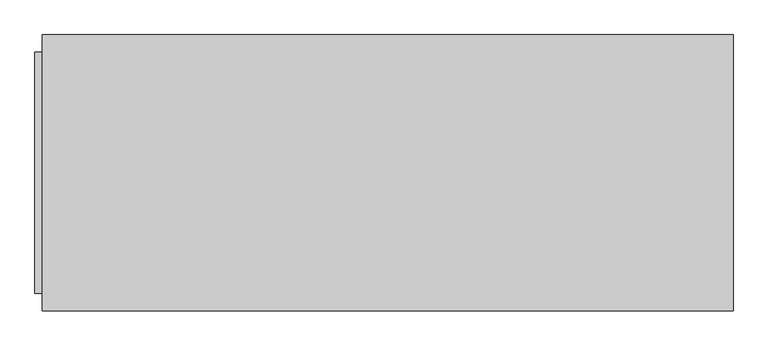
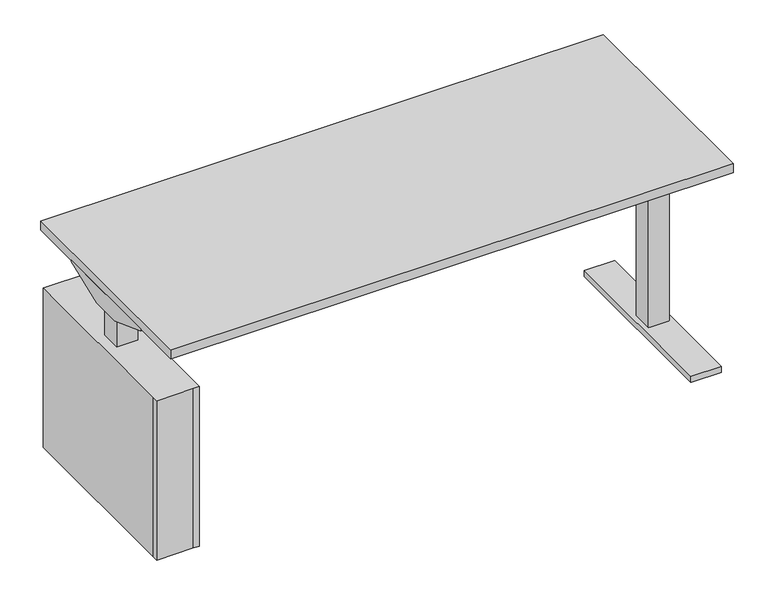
"""IFC4 building model written with IfcOpenShell, lengths in millimetres: furniture geometry, Haworth_Masters_Credenza_Desk.0001 : 28d 70w Credenza Desk - Shrouds."""

from ifc_helpers import new_model, si_unit, frame, origin, origin_with_axes, place, context, project, spatial, polyline, outline, extrude, source, transform, mapped, element, save


def furniture_03131fe9(model_context):
    return source(origin(), model_context, "Body", "SweptSolid", [
        extrude(outline(polyline([(-889.0, 311.15), (-773.4101562, 311.15), (-773.4101562, -311.15), (-792.4601562, -311.15), (-908.05, -311.15), (-908.05, -292.1), (-908.05, 311.15), (-889.0, 311.15)]), holes=[polyline([(-873.7699219, 33.02), (-873.7699219, -33.02), (-807.6902344, -33.02), (-807.6902344, 33.02), (-873.7699219, 33.02)])]), frame((0.0, 0.0, 12.7), z_axis=(0.0, 0.0, 1.0), x_axis=(1.0, 0.0, 0.0)), (0.0, 0.0, 1.0), 533.4),
        extrude(outline(polyline([(-889.0, 292.1), (-792.4601562, 292.1), (-792.4601562, -292.1), (-889.0, -292.1), (-889.0, 292.1)])), origin_with_axes(), (0.0, 0.0, 1.0), 20.6375),
        extrude(outline(polyline([(49.3599854, 648.1304493), (-49.3599854, 648.1304493), (-190.5, 700.0875), (-190.5, 706.4375), (190.5, 706.4375), (190.5, 700.0875), (49.3599854, 648.1304493)])), frame((-889.0, 0.0, 0.0), z_axis=(1.0, 0.0, 0.0), x_axis=(0.0, 1.0, 0.0)), (0.0, 0.0, 1.0), 25.4),
        extrude(outline(polyline([(-863.6, 29.21), (-811.5597656, 29.21), (-811.5597656, -29.21), (-863.6, -29.21), (-863.6, 29.21)])), frame((0.0, 0.0, 642.9375), z_axis=(0.0, 0.0, 1.0), x_axis=(1.0, 0.0, 0.0)), (0.0, 0.0, 1.0), 63.5),
        extrude(outline(polyline([(-873.7699219, 33.02), (-807.6902344, 33.02), (-807.6902344, -33.02), (-873.7699219, -33.02), (-873.7699219, 33.02)])), frame((0.0, 0.0, 20.6375), z_axis=(0.0, 0.0, 1.0), x_axis=(1.0, 0.0, 0.0)), (0.0, 0.0, 1.0), 622.3),
        extrude(outline(polyline([(889.0, 292.1), (889.0, -292.1), (792.4601563, -292.1), (792.4601563, 292.1), (889.0, 292.1)])), origin_with_axes(), (0.0, 0.0, 1.0), 20.6375),
        extrude(outline(polyline([(49.3599854, 648.1304493), (-49.3599854, 648.1304493), (-190.5, 700.0875), (-190.5, 706.4375), (190.5, 706.4375), (190.5, 700.0875), (49.3599854, 648.1304493)])), frame((863.6, 0.0, 0.0), z_axis=(1.0, 0.0, 0.0), x_axis=(0.0, 1.0, 0.0)), (0.0, 0.0, 1.0), 25.4),
        extrude(outline(polyline([(863.6, 29.21), (863.6, -29.21), (811.5597656, -29.21), (811.5597656, 29.21), (863.6, 29.21)])), frame((0.0, 0.0, 642.9375), z_axis=(0.0, 0.0, 1.0), x_axis=(1.0, 0.0, 0.0)), (0.0, 0.0, 1.0), 63.5),
        extrude(outline(polyline([(873.7699219, 33.02), (873.7699219, -33.02), (807.6902344, -33.02), (807.6902344, 33.02), (873.7699219, 33.02)])), frame((0.0, 0.0, 20.6375), z_axis=(0.0, 0.0, 1.0), x_axis=(1.0, 0.0, 0.0)), (0.0, 0.0, 1.0), 622.3),
        extrude(outline(polyline([(889.0, 355.6), (889.0, -355.6), (-889.0, -355.6), (-889.0, 355.6), (889.0, 355.6)])), frame((0.0, 0.0, 706.4375), z_axis=(0.0, 0.0, 1.0), x_axis=(1.0, 0.0, 0.0)), (0.0, 0.0, 1.0), 30.1625),
    ])


if __name__ == "__main__":
    model = new_model("IFC4")
    model_context = context("Model", 3, world=origin())
    ifc_project = project(units=[si_unit("LENGTHUNIT", "METRE", prefix="MILLI")], contexts=[model_context])
    site = spatial("IfcSite", under=ifc_project)
    building = spatial("IfcBuilding", under=site)
    placement = place(None, origin())
    furniture_shape = furniture_03131fe9(model_context)
    element("IfcFurniture", 1, ObjectType="Haworth_Masters_Credenza_Desk.0001 : 28d 70w Credenza Desk - Shrouds", at=placement, inside=building, context=model_context, shape_type="MappedRepresentation", body=[
        mapped(furniture_shape, transform((0.0, 0.0, 0.0), x_axis=(1.0, 0.0, 0.0), y_axis=(0.0, 1.0, 0.0), z_axis=(0.0, 0.0, 1.0))),
    ])
    save(model, "model.ifc")
